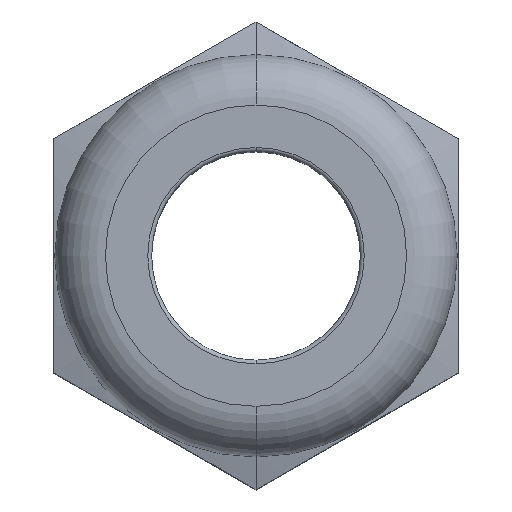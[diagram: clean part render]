
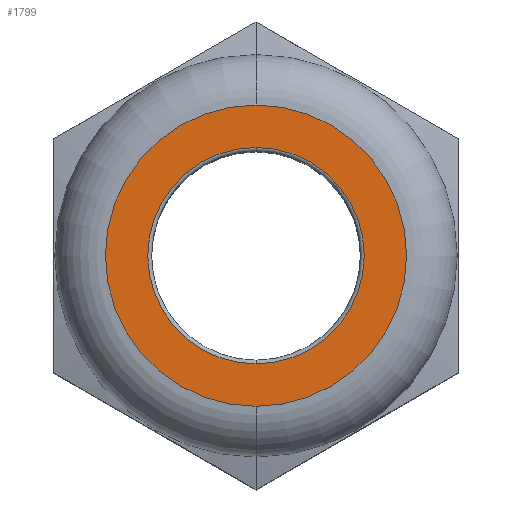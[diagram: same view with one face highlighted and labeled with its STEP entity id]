
A CAD part, top view. The second image highlights one B-rep face of the part: STEP entity #1799.
In plain terms, the highlighted planar face has unit normal (0, 0, 1).
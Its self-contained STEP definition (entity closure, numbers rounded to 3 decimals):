
#65 = CARTESIAN_POINT ( 'NONE',  ( 0., -11.9, 30.5 ) ) ;
#147 = DIRECTION ( 'NONE',  ( 0., -1., 0. ) ) ;
#148 = DIRECTION ( 'NONE',  ( 0., 0., -1. ) ) ;
#149 = CARTESIAN_POINT ( 'NONE',  ( 0., 0., 30.5 ) ) ;
#150 = AXIS2_PLACEMENT_3D ( 'NONE', #149, #148, #147 ) ;
#151 = CIRCLE ( 'NONE', #150, 8.55 ) ;
#189 = CARTESIAN_POINT ( 'NONE',  ( 0., 11.9, 30.5 ) ) ;
#208 = DIRECTION ( 'NONE',  ( 0., -1., 0. ) ) ;
#209 = AXIS2_PLACEMENT_3D ( 'NONE', #370, #377, #376 ) ;
#210 = CIRCLE ( 'NONE', #209, 11.9 ) ;
#229 = FACE_OUTER_BOUND ( 'NONE', #1612, .T. ) ;
#230 = FACE_BOUND ( 'NONE', #1788, .T. ) ;
#360 = DIRECTION ( 'NONE',  ( 0., 0., 1. ) ) ;
#361 = CARTESIAN_POINT ( 'NONE',  ( 0., 11.9, 30.5 ) ) ;
#362 = AXIS2_PLACEMENT_3D ( 'NONE', #361, #360, #208 ) ;
#370 = CARTESIAN_POINT ( 'NONE',  ( 0., 0., 30.5 ) ) ;
#374 = PLANE ( 'NONE',  #362 ) ;
#376 = DIRECTION ( 'NONE',  ( 0., 1., 0. ) ) ;
#377 = DIRECTION ( 'NONE',  ( 0., 0., -1. ) ) ;
#408 = CARTESIAN_POINT ( 'NONE',  ( 0., -8.55, 30.5 ) ) ;
#470 = CARTESIAN_POINT ( 'NONE',  ( 0., 8.55, 30.5 ) ) ;
#514 = DIRECTION ( 'NONE',  ( 0., -1., 0. ) ) ;
#515 = DIRECTION ( 'NONE',  ( 0., 0., -1. ) ) ;
#516 = CARTESIAN_POINT ( 'NONE',  ( 0., 0., 30.5 ) ) ;
#517 = AXIS2_PLACEMENT_3D ( 'NONE', #516, #515, #514 ) ;
#518 = CIRCLE ( 'NONE', #517, 8.55 ) ;
#955 = CARTESIAN_POINT ( 'NONE',  ( 0., 0., 30.5 ) ) ;
#956 = AXIS2_PLACEMENT_3D ( 'NONE', #955, #987, #986 ) ;
#957 = CIRCLE ( 'NONE', #956, 11.9 ) ;
#986 = DIRECTION ( 'NONE',  ( 0., 1., 0. ) ) ;
#987 = DIRECTION ( 'NONE',  ( 0., 0., -1. ) ) ;
#1612 = EDGE_LOOP ( 'NONE', ( #1798, #1781 ) ) ;
#1647 = EDGE_CURVE ( 'NONE', #1733, #1687, #957, .T. ) ;
#1687 = VERTEX_POINT ( 'NONE', #65 ) ;
#1733 = VERTEX_POINT ( 'NONE', #189 ) ;
#1747 = EDGE_CURVE ( 'NONE', #1903, #1902, #151, .T. ) ;
#1748 = ORIENTED_EDGE ( 'NONE', *, *, #1912, .T. ) ;
#1781 = ORIENTED_EDGE ( 'NONE', *, *, #1782, .F. ) ;
#1782 = EDGE_CURVE ( 'NONE', #1687, #1733, #210, .T. ) ;
#1788 = EDGE_LOOP ( 'NONE', ( #1797, #1748 ) ) ;
#1797 = ORIENTED_EDGE ( 'NONE', *, *, #1747, .T. ) ;
#1798 = ORIENTED_EDGE ( 'NONE', *, *, #1647, .F. ) ;
#1799 = ADVANCED_FACE ( 'NONE', ( #230, #229 ), #374, .T. ) ;
#1902 = VERTEX_POINT ( 'NONE', #470 ) ;
#1903 = VERTEX_POINT ( 'NONE', #408 ) ;
#1912 = EDGE_CURVE ( 'NONE', #1902, #1903, #518, .T. ) ;
